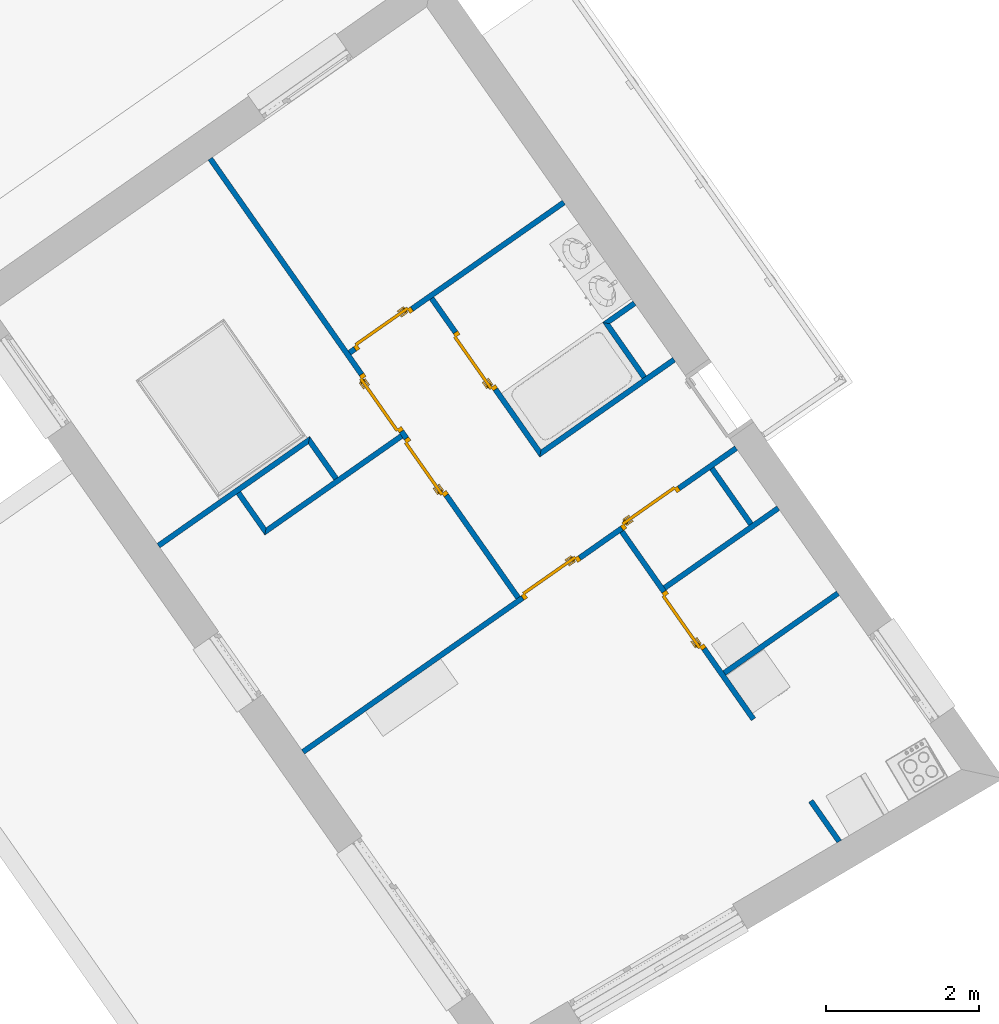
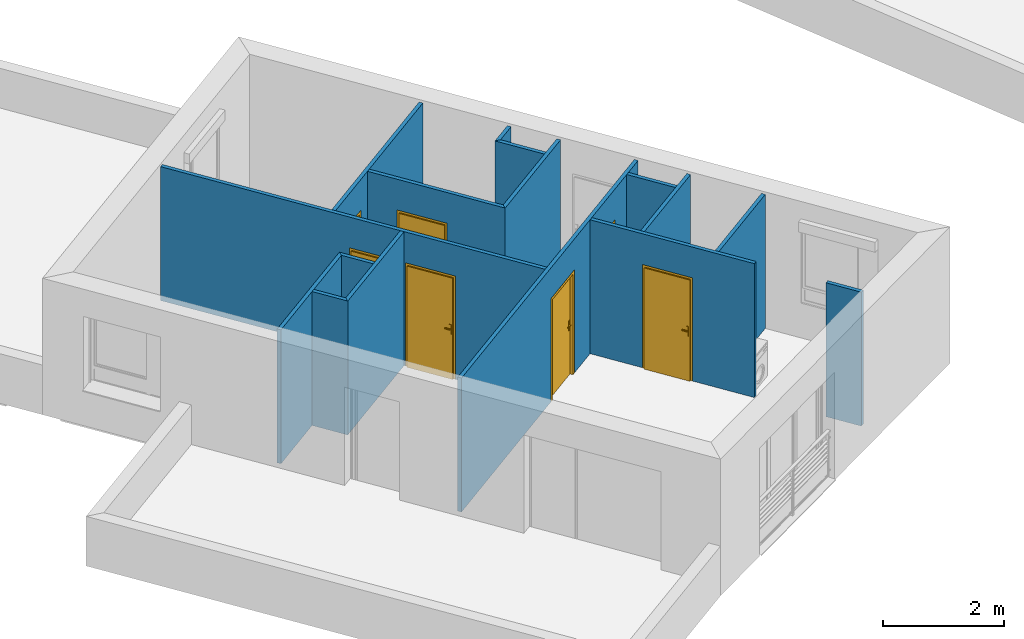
# One storey, part 27 of 121: 16 walls, 7 doors, 7 openings.
"""IFC2X3 building model written with IfcOpenShell, lengths in metres."""

from ifc_helpers import new_model, entity, si_unit, converted_unit, derived_unit, money_unit, direction, frame, origin_with_axes, origin_2d_with_axis, place, context, subcontext, project, spatial, polyline, rectangle, outline, extrude, faceted_brep, source, transform, mapped, material, layer, layer_set, layer_usage, type_object, element, fill, save


model = new_model("IFC2X3")

# Units and contexts
model_context = context("Model", 3, precision=1e-05, world=origin_with_axes(), true_north=direction((0.0, 1.0)))
body_context = subcontext(model_context, "Body", "Model", "MODEL_VIEW")
ifc_project = project(units=[si_unit("LENGTHUNIT", "METRE"), si_unit("AREAUNIT", "SQUARE_METRE"), si_unit("VOLUMEUNIT", "CUBIC_METRE"), converted_unit("PLANEANGLEUNIT", "DEGREE", entity("IfcPlaneAngleMeasure", 0.0174532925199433), si_unit("PLANEANGLEUNIT", "RADIAN"), dimensions=[0, 0, 0, 0, 0, 0, 0]), money_unit("CHF"), converted_unit("TIMEUNIT", "Year", entity("IfcTimeMeasure", 31557600.0), si_unit("TIMEUNIT", "SECOND"), dimensions=[0, 0, 1, 0, 0, 0, 0]), si_unit("MASSUNIT", "GRAM", prefix="KILO"), si_unit("THERMODYNAMICTEMPERATUREUNIT", "DEGREE_CELSIUS"), si_unit("LUMINOUSINTENSITYUNIT", "LUMEN"), si_unit("ENERGYUNIT", "JOULE", prefix="MEGA"), derived_unit("THERMALCONDUCTANCEUNIT", [(si_unit("POWERUNIT", "WATT"), 1), (si_unit("LENGTHUNIT", "METRE"), -1), (si_unit("THERMODYNAMICTEMPERATUREUNIT", "KELVIN"), -1)]), derived_unit("SPECIFICHEATCAPACITYUNIT", [(si_unit("ENERGYUNIT", "JOULE"), 1), (si_unit("MASSUNIT", "GRAM", prefix="KILO"), -1), (si_unit("THERMODYNAMICTEMPERATUREUNIT", "KELVIN"), -1)]), derived_unit("MASSDENSITYUNIT", [(si_unit("MASSUNIT", "GRAM", prefix="KILO"), 1), (si_unit("VOLUMEUNIT", "CUBIC_METRE"), -1)])], contexts=[model_context])

# Site, building, storey
site_placement = place(None, origin_with_axes())
site = spatial("IfcSite", under=ifc_project, at=site_placement, Name="Site", CompositionType="ELEMENT")
building_placement = place(site_placement, origin_with_axes())
building = spatial("IfcBuilding", under=site, at=building_placement, Name="Bâtiment", CompositionType="ELEMENT")
storey_placement = place(building_placement, frame((0.0, 0.0, 2.75), z_axis=(0.0, 0.0, 1.0), x_axis=(1.0, 0.0, 0.0)))
storey = spatial("IfcBuildingStorey", under=building, at=storey_placement, Name="Etage 1", CompositionType="ELEMENT", Elevation=2.75)

# Walls
ifc_material = material(Name="Hachure solide 268963992")
ifc_layer = layer(ifc_material, 0.07, ventilated="UNKNOWN")
ifc_layer_set = layer_set([ifc_layer], Name="Cloison 70 0826278243")
ifc_layer_usage_1 = layer_usage(ifc_layer_set, "AXIS2", "NEGATIVE", 0.0)
wall_type = type_object("IfcWallType", Name="Cloison 70 0826278243 70", PredefinedType="NOTDEFINED")
wall_1_placement = place(storey_placement, frame((9558.596994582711, -1063.78770754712, 57.7), z_axis=(0.0, 0.0, 1.0), x_axis=(-0.8187432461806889, -0.5741598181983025, 0.0)))
element("IfcWallStandardCase", 1, at=wall_1_placement, inside=storey, type_object=wall_type, material=ifc_layer_usage_1, Name="Mur-149", context=body_context, shape_type="SweptSolid", body=[
    extrude(outline(polyline([(0.3800000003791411, -0.06999999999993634), (0.8668959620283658, -0.06999999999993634), (0.796895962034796, 0.0), (0.3800000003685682, 0.0), (0.3800000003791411, -0.06999999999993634)])), origin_with_axes(), (0.0, 0.0, 1.0), 2.7),
])
ifc_layer_usage_2 = layer_usage(ifc_layer_set, "AXIS2", "NEGATIVE", 0.0)
wall_2_placement = place(storey_placement, frame((9557.944541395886, -1064.245253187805, 57.7), z_axis=(0.0, 0.0, 1.0), x_axis=(0.5741598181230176, -0.8187432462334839, 0.0)))
element("IfcWallStandardCase", 2, at=wall_2_placement, inside=storey, type_object=wall_type, material=ifc_layer_usage_2, Name="Mur-149", context=body_context, shape_type="SweptSolid", body=[
    extrude(outline(polyline([(-0.06999999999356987, -0.06999999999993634), (0.8300000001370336, -0.06999999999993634), (0.8300000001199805, 0.0), (0.0, 0.0), (-0.06999999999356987, -0.06999999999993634)])), origin_with_axes(), (0.0, 0.0, 1.0), 2.7),
])
ifc_layer_usage_3 = layer_usage(ifc_layer_set, "AXIS2", "POSITIVE", 0.0)
wall_3_placement = place(storey_placement, frame((9553.964823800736, -1065.756495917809, 57.7), z_axis=(0.0, 0.0, 1.0), x_axis=(-0.8187432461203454, -0.5741598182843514, 0.0)))
element("IfcWallStandardCase", 3, at=wall_3_placement, inside=storey, type_object=wall_type, material=ifc_layer_usage_3, Name="Mur-149", context=body_context, shape_type="SweptSolid", body=[
    extrude(outline(polyline([(-0.07000000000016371, 0.0), (2.366956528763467, 0.0), (2.366956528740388, 0.06999999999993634), (0.0, 0.07000000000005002), (-0.07000000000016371, 0.0)])), origin_with_axes(), (0.0, 0.0, 1.0), 2.7),
])

# Wall, openings, doors
ifc_layer_usage_4 = layer_usage(ifc_layer_set, "AXIS2", "NEGATIVE", 0.0)
wall_4_placement = place(storey_placement, frame((9552.533753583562, -1061.757635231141, 57.7), z_axis=(0.0, 0.0, 1.0), x_axis=(0.5741598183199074, -0.8187432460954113, 0.0)))
wall_4 = element("IfcWallStandardCase", 4, at=wall_4_placement, inside=storey, type_object=wall_type, material=ifc_layer_usage_4, Name="Mur-149", context=body_context, shape_type="SweptSolid", body=[
    extrude(outline(polyline([(0.3800000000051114, -0.07000000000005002), (7.385102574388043, -0.07000000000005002), (7.385102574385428, 0.0), (0.3800000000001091, 0.0), (0.3800000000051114, -0.07000000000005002)])), origin_with_axes(), (0.0, 0.0, 1.0), 2.7),
])
opening_1_placement = place(wall_4_placement, frame((4.275398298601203, 0.0, 0.0), z_axis=(0.0, 0.0, 1.0), x_axis=(1.0, 0.0, 0.0)))
opening_1 = element("IfcOpeningElement", 5, at=opening_1_placement, cuts=wall_4, Name="Por-301", context=body_context, shape_type="SweptSolid", body=[
    extrude(rectangle(XDim=0.9099999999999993, YDim=2.079999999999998, at=origin_2d_with_axis()), frame((0.0, 0.07000000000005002, 1.039999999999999), z_axis=(0.0, 1.0, 0.0), x_axis=(1.0, 0.0, 0.0)), (0.0, 0.0, -1.0), 0.14),
])
opening_2_placement = place(wall_4_placement, frame((5.296599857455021, 0.0, 0.0), z_axis=(0.0, 0.0, 1.0), x_axis=(1.0, 0.0, 0.0)))
opening_2 = element("IfcOpeningElement", 6, at=opening_2_placement, cuts=wall_4, Name="Por-302", context=body_context, shape_type="SweptSolid", body=[
    extrude(rectangle(XDim=0.9099999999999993, YDim=2.079999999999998, at=origin_2d_with_axis()), frame((0.0, 0.06999999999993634, 1.039999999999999), z_axis=(0.0, -1.0, 0.0), x_axis=(-1.0, 0.0, 0.0)), (0.0, 0.0, 1.0), 0.14),
])
door_style = type_object("IfcDoorStyle", Name="Porte_1v", ConstructionType="NOTDEFINED", OperationType="NOTDEFINED", ParameterTakesPrecedence=False, Sizeable=False)
shared_shape_1 = source(origin_with_axes(), body_context, "Body", "Brep", [
    faceted_brep([(0.455, 0.0, 0.0), (0.415, 0.0, 0.0), (0.415, 0.0, 2.04), (-0.415, 0.0, 2.04), (-0.415, 0.0, 0.0), (-0.455, 0.0, 0.0), (-0.455, 0.0, 2.08), (0.455, 0.0, 2.08), (0.455, -0.07, 0.0), (0.4, -0.07, 0.0), (0.4, -0.015, 0.0), (0.415, -0.015, 0.0), (0.415, -0.015, 2.04), (-0.415, -0.015, 2.04), (-0.415, -0.015, 0.0), (-0.4, -0.015, 0.0), (-0.4, -0.07, 0.0), (-0.455, -0.07, 0.0), (-0.455, -0.07, 2.08), (0.455, -0.07, 2.08), (-0.4, -0.07, 2.025), (0.4, -0.07, 2.025), (0.4, -0.015, 2.025), (-0.4, -0.015, 2.025)], [[[0, 1, 2, 3, 4, 5, 6, 7]], [[0, 8, 9, 10, 11, 1]], [[1, 11, 12, 2]], [[2, 12, 13, 3]], [[3, 13, 14, 4]], [[5, 4, 14, 15, 16, 17]], [[18, 6, 5, 17]], [[19, 7, 6, 18]], [[8, 0, 7, 19]], [[9, 8, 19, 18, 17, 16, 20, 21]], [[10, 9, 21, 22]], [[11, 10, 22, 23, 15, 14, 13, 12]], [[23, 20, 16, 15]], [[22, 21, 20, 23]]]),
    faceted_brep([(-0.35, -0.015, 0.9), (-0.39, -0.015, 0.9), (-0.39, -0.015, 1.1), (-0.35, -0.015, 1.1), (-0.35, -0.025, 0.9), (-0.39, -0.025, 0.9), (-0.39, -0.025, 1.1), (-0.35, -0.025, 1.1)], [[[0, 1, 2, 3]], [[1, 0, 4, 5]], [[2, 1, 5, 6]], [[3, 2, 6, 7]], [[0, 3, 7, 4]], [[5, 4, 7, 6]]]),
    faceted_brep([(-0.28, -0.025, 1.0), (-0.38, -0.025, 1.0), (-0.38, -0.025, 1.02), (-0.28, -0.025, 1.02), (-0.28, -0.045, 1.0), (-0.38, -0.045, 1.0), (-0.38, -0.045, 1.02), (-0.28, -0.045, 1.02)], [[[0, 1, 2, 3]], [[1, 0, 4, 5]], [[2, 1, 5, 6]], [[3, 2, 6, 7]], [[0, 3, 7, 4]], [[5, 4, 7, 6]]]),
    faceted_brep([(-0.35, 0.035, 0.9), (-0.39, 0.035, 0.9), (-0.39, 0.035, 1.1), (-0.35, 0.035, 1.1), (-0.35, 0.025, 0.9), (-0.39, 0.025, 0.9), (-0.39, 0.025, 1.1), (-0.35, 0.025, 1.1)], [[[0, 1, 2, 3]], [[1, 0, 4, 5]], [[2, 1, 5, 6]], [[3, 2, 6, 7]], [[0, 3, 7, 4]], [[5, 4, 7, 6]]]),
    faceted_brep([(-0.28, 0.05500000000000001, 1.0), (-0.38, 0.05500000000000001, 1.0), (-0.38, 0.05500000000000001, 1.02), (-0.28, 0.05500000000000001, 1.02), (-0.28, 0.035, 1.0), (-0.38, 0.035, 1.0), (-0.38, 0.035, 1.02), (-0.28, 0.035, 1.02)], [[[0, 1, 2, 3]], [[1, 0, 4, 5]], [[2, 1, 5, 6]], [[3, 2, 6, 7]], [[0, 3, 7, 4]], [[5, 4, 7, 6]]]),
    faceted_brep([(-0.415, 0.025, 0.0), (0.415, 0.025, 0.0), (0.415, -0.015, 0.0), (-0.415, -0.015, 0.0), (-0.415, 0.025, 2.04), (0.415, 0.025, 2.04), (0.415, -0.015, 2.04), (-0.415, -0.015, 2.04)], [[[0, 1, 2, 3]], [[0, 4, 5, 1]], [[1, 5, 6, 2]], [[3, 2, 6, 7]], [[4, 0, 3, 7]], [[5, 4, 7, 6]]]),
])
door_1_placement = place(opening_2_placement, frame((0.4149999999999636, 0.0, 0.0), z_axis=(0.0, 0.0, 1.0), x_axis=(-1.0, 0.0, 0.0)))
door_1 = element("IfcDoor", 7, at=door_1_placement, inside=storey, type_object=door_style, Name="Por-302", OverallHeight=2.04, OverallWidth=0.83, context=body_context, shape_type="MappedRepresentation", body=[
    mapped(shared_shape_1, transform((0.4149999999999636, 0.06999999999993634, 0.0))),
])
fill(opening_2, door_1)
shared_shape_2 = source(origin_with_axes(), body_context, "Body", "Brep", [
    faceted_brep([(-0.455, 0.0, 0.0), (-0.455, 0.0, 2.08), (0.455, 0.0, 2.08), (0.455, 0.0, 0.0), (0.415, 0.0, 0.0), (0.415, 0.0, 2.04), (-0.415, 0.0, 2.04), (-0.415, 0.0, 0.0), (-0.455, -0.07, 0.0), (-0.455, -0.07, 2.08), (0.455, -0.07, 2.08), (0.455, -0.07, 0.0), (0.4, -0.07, 0.0), (0.4, -0.015, 0.0), (0.415, -0.015, 0.0), (0.415, -0.015, 2.04), (-0.415, -0.015, 2.04), (-0.415, -0.015, 0.0), (-0.4, -0.015, 0.0), (-0.4, -0.07, 0.0), (-0.4, -0.07, 2.025), (0.4, -0.07, 2.025), (0.4, -0.015, 2.025), (-0.4, -0.015, 2.025)], [[[0, 1, 2, 3, 4, 5, 6, 7]], [[8, 9, 1, 0]], [[9, 10, 2, 1]], [[10, 11, 3, 2]], [[3, 11, 12, 13, 14, 4]], [[5, 4, 14, 15]], [[6, 5, 15, 16]], [[7, 6, 16, 17]], [[0, 7, 17, 18, 19, 8]], [[19, 20, 21, 12, 11, 10, 9, 8]], [[22, 13, 12, 21]], [[17, 16, 15, 14, 13, 22, 23, 18]], [[18, 23, 20, 19]], [[23, 22, 21, 20]]]),
    faceted_brep([(0.35, -0.015, 0.9), (0.35, -0.015, 1.1), (0.39, -0.015, 1.1), (0.39, -0.015, 0.9), (0.35, -0.025, 0.9), (0.35, -0.025, 1.1), (0.39, -0.025, 1.1), (0.39, -0.025, 0.9)], [[[0, 1, 2, 3]], [[0, 4, 5, 1]], [[1, 5, 6, 2]], [[2, 6, 7, 3]], [[3, 7, 4, 0]], [[7, 6, 5, 4]]]),
    faceted_brep([(0.28, -0.025, 1.0), (0.28, -0.025, 1.02), (0.38, -0.025, 1.02), (0.38, -0.025, 1.0), (0.28, -0.045, 1.0), (0.28, -0.045, 1.02), (0.38, -0.045, 1.02), (0.38, -0.045, 1.0)], [[[0, 1, 2, 3]], [[0, 4, 5, 1]], [[1, 5, 6, 2]], [[2, 6, 7, 3]], [[3, 7, 4, 0]], [[7, 6, 5, 4]]]),
    faceted_brep([(0.35, 0.035, 0.9), (0.35, 0.035, 1.1), (0.39, 0.035, 1.1), (0.39, 0.035, 0.9), (0.35, 0.025, 0.9), (0.35, 0.025, 1.1), (0.39, 0.025, 1.1), (0.39, 0.025, 0.9)], [[[0, 1, 2, 3]], [[0, 4, 5, 1]], [[1, 5, 6, 2]], [[2, 6, 7, 3]], [[3, 7, 4, 0]], [[7, 6, 5, 4]]]),
    faceted_brep([(0.28, 0.05500000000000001, 1.0), (0.28, 0.05500000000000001, 1.02), (0.38, 0.05500000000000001, 1.02), (0.38, 0.05500000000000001, 1.0), (0.28, 0.035, 1.0), (0.28, 0.035, 1.02), (0.38, 0.035, 1.02), (0.38, 0.035, 1.0)], [[[0, 1, 2, 3]], [[0, 4, 5, 1]], [[1, 5, 6, 2]], [[2, 6, 7, 3]], [[3, 7, 4, 0]], [[7, 6, 5, 4]]]),
    faceted_brep([(0.415, 0.025, 0.0), (0.415, -0.015, 0.0), (-0.415, -0.015, 0.0), (-0.415, 0.025, 0.0), (0.415, 0.025, 2.04), (0.415, -0.015, 2.04), (-0.415, -0.015, 2.04), (-0.415, 0.025, 2.04)], [[[0, 1, 2, 3]], [[4, 5, 1, 0]], [[1, 5, 6, 2]], [[3, 2, 6, 7]], [[0, 3, 7, 4]], [[7, 6, 5, 4]]]),
])
door_2_placement = place(opening_1_placement, frame((0.4149999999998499, 0.0, 0.0), z_axis=(0.0, 0.0, 1.0), x_axis=(-1.0, 0.0, 0.0)))
door_2 = element("IfcDoor", 8, at=door_2_placement, inside=storey, type_object=door_style, Name="Por-301", OverallHeight=2.04, OverallWidth=0.83, context=body_context, shape_type="MappedRepresentation", body=[
    mapped(shared_shape_2, transform((0.4149999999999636, 0.07000000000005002, 0.0))),
])
fill(opening_1, door_2)

# Walls
ifc_layer_usage_5 = layer_usage(ifc_layer_set, "AXIS2", "POSITIVE", 0.0)
wall_5_placement = place(storey_placement, frame((9553.964823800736, -1065.756495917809, 57.7), z_axis=(0.0, 0.0, 1.0), x_axis=(0.5741598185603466, -0.8187432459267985, 0.0)))
element("IfcWallStandardCase", 9, at=wall_5_placement, inside=storey, type_object=wall_type, material=ifc_layer_usage_5, Name="Mur-149", context=body_context, shape_type="SweptSolid", body=[
    extrude(outline(polyline([(0.06999999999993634, 0.0), (0.6499928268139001, 0.0), (0.6499928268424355, 0.06999999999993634), (0.0, 0.06999999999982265), (0.06999999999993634, 0.0)])), origin_with_axes(), (0.0, 0.0, 1.0), 2.7),
])
ifc_layer_usage_6 = layer_usage(ifc_layer_set, "AXIS2", "NEGATIVE", 0.0)
wall_6_placement = place(storey_placement, frame((9555.298732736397, -1065.700453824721, 57.7), z_axis=(0.0, 0.0, 1.0), x_axis=(-0.8187432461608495, -0.5741598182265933, 0.0)))
element("IfcWallStandardCase", 10, at=wall_6_placement, inside=storey, type_object=wall_type, material=ifc_layer_usage_6, Name="Mur-149", context=body_context, shape_type="SweptSolid", body=[
    extrude(outline(polyline([(0.06999999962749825, -0.06999999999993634), (2.204677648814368, -0.06999999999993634), (2.274677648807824, 0.0), (0.06999999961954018, 0.0), (0.06999999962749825, -0.06999999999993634)])), origin_with_axes(), (0.0, 0.0, 1.0), 2.7),
])

# Wall, opening, door
ifc_layer_usage_7 = layer_usage(ifc_layer_set, "AXIS2", "NEGATIVE", 0.0)
wall_7_placement = place(storey_placement, frame((9557.673536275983, -1062.470869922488, 57.7), z_axis=(0.0, 0.0, 1.0), x_axis=(-0.8187432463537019, -0.5741598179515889, 0.0)))
wall_7 = element("IfcWallStandardCase", 11, at=wall_7_placement, inside=storey, type_object=wall_type, material=ifc_layer_usage_7, Name="Mur-149", context=body_context, shape_type="SweptSolid", body=[
    extrude(outline(polyline([(0.3800000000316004, -0.06999999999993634), (3.798651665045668, -0.06999999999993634), (3.798651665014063, 0.0), (0.3800000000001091, 0.0), (0.3800000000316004, -0.06999999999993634)])), origin_with_axes(), (0.0, 0.0, 1.0), 2.7),
])
opening_3_placement = place(wall_7_placement, frame((3.258007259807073, 0.0, 0.0), z_axis=(0.0, 0.0, 1.0), x_axis=(1.0, 0.0, 0.0)))
opening_3 = element("IfcOpeningElement", 12, at=opening_3_placement, cuts=wall_7, Name="Por-303", context=body_context, shape_type="SweptSolid", body=[
    extrude(rectangle(XDim=0.9099999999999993, YDim=2.079999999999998, at=origin_2d_with_axis()), frame((0.0, 0.07000000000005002, 1.039999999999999), z_axis=(0.0, 1.0, 0.0), x_axis=(1.0, 0.0, 0.0)), (0.0, 0.0, -1.0), 0.14),
])
door_3_placement = place(opening_3_placement, frame((0.4150000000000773, 0.0, 0.0), z_axis=(0.0, 0.0, 1.0), x_axis=(-1.0, 0.0, 0.0)))
door_3 = element("IfcDoor", 13, at=door_3_placement, inside=storey, type_object=door_style, Name="Por-303", OverallHeight=2.04, OverallWidth=0.83, context=body_context, shape_type="MappedRepresentation", body=[
    mapped(shared_shape_2, transform((0.4149999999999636, 0.06999999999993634, 0.0))),
])
fill(opening_3, door_3)

# Wall
ifc_layer_usage_8 = layer_usage(ifc_layer_set, "AXIS2", "POSITIVE", 0.0)
wall_8_placement = place(storey_placement, frame((9553.022964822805, -1066.416993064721, 57.7), z_axis=(0.0, 0.0, 1.0), x_axis=(0.5741598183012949, -0.8187432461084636, 0.0)))
element("IfcWallStandardCase", 14, at=wall_8_placement, inside=storey, type_object=wall_type, material=ifc_layer_usage_8, Name="Mur-149", context=body_context, shape_type="SweptSolid", body=[
    extrude(outline(polyline([(0.07000000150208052, 0.0), (0.7199928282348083, 0.0), (0.6499928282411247, 0.06999999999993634), (0.07000000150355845, 0.07000000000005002), (0.07000000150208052, 0.0)])), origin_with_axes(), (0.0, 0.0, 1.0), 2.7),
])

# Wall, opening, door
ifc_layer_usage_9 = layer_usage(ifc_layer_set, "AXIS2", "POSITIVE", 0.0)
wall_9_placement = place(storey_placement, frame((9559.847978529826, -1069.391194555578, 57.7), z_axis=(0.0, 0.0, 1.0), x_axis=(-0.574159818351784, 0.818743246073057, 0.0)))
wall_9 = element("IfcWallStandardCase", 15, at=wall_9_placement, inside=storey, type_object=wall_type, material=ifc_layer_usage_9, Name="Mur-149", context=body_context, shape_type="SweptSolid", body=[
    extrude(outline(polyline([(0.0, 0.0), (2.9943566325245, 0.0), (2.9943566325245, 0.07000000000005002), (0.0, 0.07000000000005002), (0.0, 0.0)])), origin_with_axes(), (0.0, 0.0, 1.0), 2.7),
])
opening_4_placement = place(wall_9_placement, frame((1.580319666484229, 0.0, 0.0), z_axis=(0.0, 0.0, 1.0), x_axis=(1.0, 0.0, 0.0)))
opening_4 = element("IfcOpeningElement", 16, at=opening_4_placement, cuts=wall_9, Name="Por-299", context=body_context, shape_type="SweptSolid", body=[
    extrude(rectangle(XDim=0.9099999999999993, YDim=2.079999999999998, at=origin_2d_with_axis()), frame((0.0, -0.07000000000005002, 1.039999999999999), z_axis=(0.0, 1.0, 0.0), x_axis=(1.0, 0.0, 0.0)), (0.0, 0.0, 1.0), 0.14),
])
door_4_placement = place(opening_4_placement, frame((-0.4150000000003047, 0.0, 0.0), z_axis=(0.0, 0.0, 1.0), x_axis=(1.0, 0.0, 0.0)))
door_4 = element("IfcDoor", 17, at=door_4_placement, inside=storey, type_object=door_style, Name="Por-299", OverallHeight=2.04, OverallWidth=0.83, context=body_context, shape_type="MappedRepresentation", body=[
    mapped(shared_shape_1, transform((0.4150000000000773, 0.06999999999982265, 0.0))),
])
fill(opening_4, door_4)

ifc_layer_usage_10 = layer_usage(ifc_layer_set, "AXIS2", "NEGATIVE", 0.0)
wall_10_placement = place(storey_placement, frame((9555.644156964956, -1063.894012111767, 57.7), z_axis=(0.0, 0.0, 1.0), x_axis=(0.5741598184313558, -0.8187432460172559, 0.0)))
wall_10 = element("IfcWallStandardCase", 18, at=wall_10_placement, inside=storey, type_object=wall_type, material=ifc_layer_usage_10, Name="Mur-149", context=body_context, shape_type="SweptSolid", body=[
    extrude(outline(polyline([(-3.407194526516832e-10, -0.07000000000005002), (2.508364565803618, -0.06999999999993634), (2.438364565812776, 0.0), (-2.996785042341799e-10, 0.0), (-3.407194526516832e-10, -0.07000000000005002)])), origin_with_axes(), (0.0, 0.0, 1.0), 2.7),
])
opening_5_placement = place(wall_10_placement, frame((0.9964902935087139, 0.0, 0.0), z_axis=(0.0, 0.0, 1.0), x_axis=(1.0, 0.0, 0.0)))
opening_5 = element("IfcOpeningElement", 19, at=opening_5_placement, cuts=wall_10, Name="Por-299", context=body_context, shape_type="SweptSolid", body=[
    extrude(rectangle(XDim=0.9099999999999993, YDim=2.079999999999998, at=origin_2d_with_axis()), frame((0.0, 0.07000000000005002, 1.039999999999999), z_axis=(0.0, -1.0, 0.0), x_axis=(-1.0, 0.0, 0.0)), (0.0, 0.0, 1.0), 0.14),
])
door_5_placement = place(opening_5_placement, frame((0.4150000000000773, 0.0, 0.0), z_axis=(0.0, 0.0, 1.0), x_axis=(-1.0, 0.0, 0.0)))
door_5 = element("IfcDoor", 20, at=door_5_placement, inside=storey, type_object=door_style, Name="Por-299", OverallHeight=2.04, OverallWidth=0.83, context=body_context, shape_type="MappedRepresentation", body=[
    mapped(shared_shape_1, transform((0.4150000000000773, 0.07000000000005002, 0.0))),
])
fill(opening_5, door_5)

# Walls
ifc_layer_usage_11 = layer_usage(ifc_layer_set, "AXIS2", "POSITIVE", 0.0)
wall_11_placement = place(storey_placement, frame((9561.187973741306, -1071.302007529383, 57.7), z_axis=(0.0, 0.0, 1.0), x_axis=(-0.5741598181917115, 0.8187432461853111, 0.0)))
element("IfcWallStandardCase", 21, at=wall_11_placement, inside=storey, type_object=wall_type, material=ifc_layer_usage_11, Name="Mur-149", context=body_context, shape_type="SweptSolid", body=[
    extrude(outline(polyline([(0.3811938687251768, 0.0), (1.030034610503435, 0.0), (1.030034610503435, 0.07000000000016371), (0.3867470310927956, 0.07000000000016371), (0.3811938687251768, 0.0)])), origin_with_axes(), (0.0, 0.0, 1.0), 2.7),
])
ifc_layer_usage_12 = layer_usage(ifc_layer_set, "AXIS2", "NEGATIVE", 0.0)
wall_12_placement = place(storey_placement, frame((9559.418173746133, -1068.778299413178, 57.7), z_axis=(0.0, 0.0, 1.0), x_axis=(0.8187432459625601, 0.5741598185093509, 0.0)))
element("IfcWallStandardCase", 22, at=wall_12_placement, inside=storey, type_object=wall_type, material=ifc_layer_usage_12, Name="Mur-149", context=body_context, shape_type="SweptSolid", body=[
    extrude(outline(polyline([(1.349462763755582e-10, -0.07000000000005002), (1.813062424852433, -0.07000000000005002), (1.813062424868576, 0.0), (1.482476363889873e-10, 0.0), (1.349462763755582e-10, -0.07000000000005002)])), origin_with_axes(), (0.0, 0.0, 1.0), 2.7),
])

# Wall, openings, doors
ifc_layer_usage_13 = layer_usage(ifc_layer_set, "AXIS2", "NEGATIVE", 0.0)
wall_13_placement = place(storey_placement, frame((9559.924294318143, -1065.680416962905, 57.7), z_axis=(0.0, 0.0, 1.0), x_axis=(-0.8187432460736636, -0.5741598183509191, 0.0)))
wall_13 = element("IfcWallStandardCase", 23, at=wall_13_placement, inside=storey, type_object=wall_type, material=ifc_layer_usage_13, Name="Mur-149", context=body_context, shape_type="SweptSolid", body=[
    extrude(outline(polyline([(0.379999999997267, -0.07000000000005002), (7.289914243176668, -0.06999999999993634), (7.289914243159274, 0.0), (0.3799999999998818, 0.0), (0.379999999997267, -0.07000000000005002)])), origin_with_axes(), (0.0, 0.0, 1.0), 2.7),
])
opening_6_placement = place(wall_13_placement, frame((3.332180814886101, 0.0, 0.0), z_axis=(0.0, 0.0, 1.0), x_axis=(1.0, 0.0, 0.0)))
opening_6 = element("IfcOpeningElement", 24, at=opening_6_placement, cuts=wall_13, Name="Por-299", context=body_context, shape_type="SweptSolid", body=[
    extrude(rectangle(XDim=0.9099999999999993, YDim=2.079999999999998, at=origin_2d_with_axis()), frame((0.0, 0.06999999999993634, 1.039999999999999), z_axis=(0.0, 1.0, 0.0), x_axis=(1.0, 0.0, 0.0)), (0.0, 0.0, -1.0), 0.14),
])
opening_7_placement = place(wall_13_placement, frame((1.748594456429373, 0.0, 0.0), z_axis=(0.0, 0.0, 1.0), x_axis=(1.0, 0.0, 0.0)))
opening_7 = element("IfcOpeningElement", 25, at=opening_7_placement, cuts=wall_13, Name="Por-300", context=body_context, shape_type="SweptSolid", body=[
    extrude(rectangle(XDim=0.9099999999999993, YDim=2.079999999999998, at=origin_2d_with_axis()), frame((0.0, 0.07000000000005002, 1.039999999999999), z_axis=(0.0, -1.0, 0.0), x_axis=(-1.0, 0.0, 0.0)), (0.0, 0.0, 1.0), 0.14),
])
door_6_placement = place(opening_7_placement, frame((0.4149999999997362, 0.0, 0.0), z_axis=(0.0, 0.0, 1.0), x_axis=(-1.0, 0.0, 0.0)))
door_6 = element("IfcDoor", 26, at=door_6_placement, inside=storey, type_object=door_style, Name="Por-300", OverallHeight=2.04, OverallWidth=0.83, context=body_context, shape_type="MappedRepresentation", body=[
    mapped(shared_shape_1, transform((0.4150000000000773, 0.07000000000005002, 0.0))),
])
fill(opening_7, door_6)
door_7_placement = place(opening_6_placement, frame((0.4150000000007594, 0.0, 0.0), z_axis=(0.0, 0.0, 1.0), x_axis=(-1.0, 0.0, 0.0)))
door_7 = element("IfcDoor", 27, at=door_7_placement, inside=storey, type_object=door_style, Name="Por-299", OverallHeight=2.04, OverallWidth=0.83, context=body_context, shape_type="MappedRepresentation", body=[
    mapped(shared_shape_2, transform((0.4150000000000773, 0.07000000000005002, 0.0))),
])
fill(opening_6, door_7)

# Walls
ifc_layer_usage_14 = layer_usage(ifc_layer_set, "AXIS2", "NEGATIVE", 0.0)
wall_14_placement = place(storey_placement, frame((9559.113738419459, -1064.524576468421, 57.7), z_axis=(0.0, 0.0, 1.0), x_axis=(-0.8187432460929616, -0.5741598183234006, 0.0)))
element("IfcWallStandardCase", 28, at=wall_14_placement, inside=storey, type_object=wall_type, material=ifc_layer_usage_14, Name="Mur-149", context=body_context, shape_type="SweptSolid", body=[
    extrude(outline(polyline([(0.380000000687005, -0.07000000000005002), (2.478651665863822, -0.07000000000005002), (2.54865166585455, 0.0), (0.3800000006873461, 0.0), (0.380000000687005, -0.07000000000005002)])), origin_with_axes(), (0.0, 0.0, 1.0), 2.7),
])
ifc_layer_usage_15 = layer_usage(ifc_layer_set, "AXIS2", "POSITIVE", 0.0)
wall_15_placement = place(storey_placement, frame((9559.813936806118, -1066.841575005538, 57.7), z_axis=(0.0, 0.0, 1.0), x_axis=(-0.5741598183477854, 0.8187432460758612, 0.0)))
element("IfcWallStandardCase", 29, at=wall_15_placement, inside=storey, type_object=wall_type, material=ifc_layer_usage_15, Name="Mur-149", context=body_context, shape_type="SweptSolid", body=[
    extrude(outline(polyline([(0.0, 0.0), (0.887327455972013, 0.0), (0.887327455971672, 0.07000000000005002), (0.0, 0.07000000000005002), (0.0, 0.0)])), origin_with_axes(), (0.0, 0.0, 1.0), 2.7),
])
ifc_layer_usage_16 = layer_usage(ifc_layer_set, "AXIS2", "NEGATIVE", 0.0)
wall_16_placement = place(storey_placement, frame((9558.638207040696, -1067.666078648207, 57.7), z_axis=(0.0, 0.0, 1.0), x_axis=(0.8187432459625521, 0.5741598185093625, 0.0)))
element("IfcWallStandardCase", 30, at=wall_16_placement, inside=storey, type_object=wall_type, material=ifc_layer_usage_16, Name="Mur-149", context=body_context, shape_type="SweptSolid", body=[
    extrude(outline(polyline([(0.0, -0.07000000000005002), (1.813062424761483, -0.07000000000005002), (1.813062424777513, 0.0), (0.0, 0.0), (0.0, -0.07000000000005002)])), origin_with_axes(), (0.0, 0.0, 1.0), 2.7),
])

save(model, "model.ifc")
